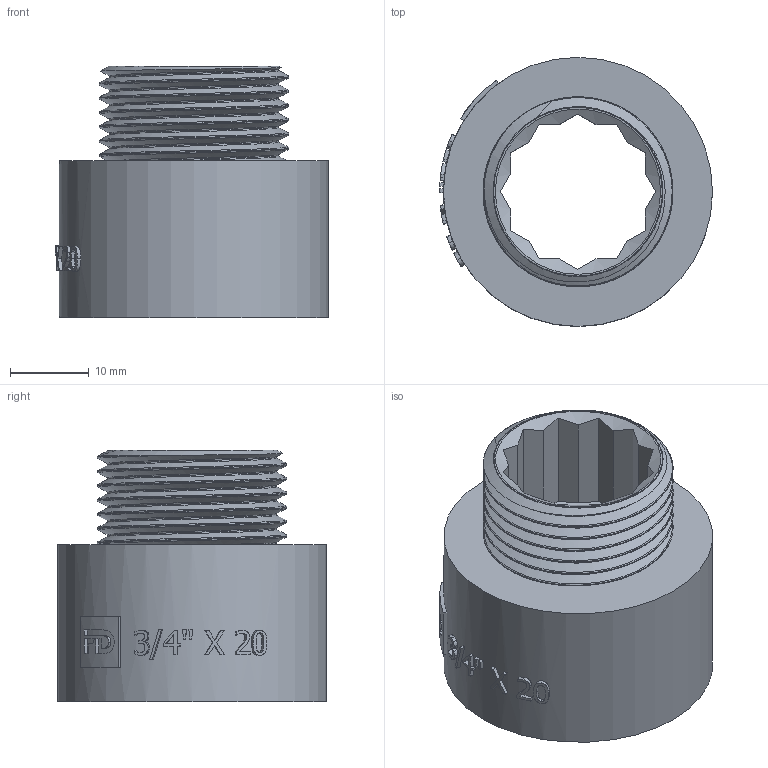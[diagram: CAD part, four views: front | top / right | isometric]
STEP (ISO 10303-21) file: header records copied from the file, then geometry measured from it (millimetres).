
FILE_DESCRIPTION(/* description */ (''),/* implementation_level */ '2;1');
FILE_NAME(/* name */ 'C:\Users\Doom\Desktop\Резьба\UN20 18.03.2020\UN20 18.03.2020.stp',/* time_stamp */ '2022-01-22T17:01:22+02:00',/* author */ ('Doom'),/* organization */ (''),/* preprocessor_version */ 'ST-DEVELOPER v18',/* originating_system */ 'Autodesk Inventor 2020',/* authorisation */ '');
FILE_SCHEMA (('AUTOMOTIVE_DESIGN { 1 0 10303 214 3 1 1 }'));
Length unit declared in the file: millimetre
Products named in the file (1): UD20 18.03.2020
Bounding box: 34.7 x 34.2 x 32 mm (x, y, z)
Volume: 10457.6 mm3; surface area: 13286.8 mm2
Topology: 3 solids, 3 shells, 200 faces, 551 edges, 370 vertices
Faces by surface type: plane 85, bspline 75, cylinder 36, cone 4
Full cylindrical faces by diameter (mm): 21.44 x2, 23.75 x9, 24.13 x5, 26.44 x2, 34.2 x1
Entity records: 16753 total; most frequent: CARTESIAN_POINT 12271, ORIENTED_EDGE 1094, DIRECTION 647, EDGE_CURVE 547, VERTEX_POINT 368, AXIS2_PLACEMENT_3D 222, EDGE_LOOP 221, LINE 203
